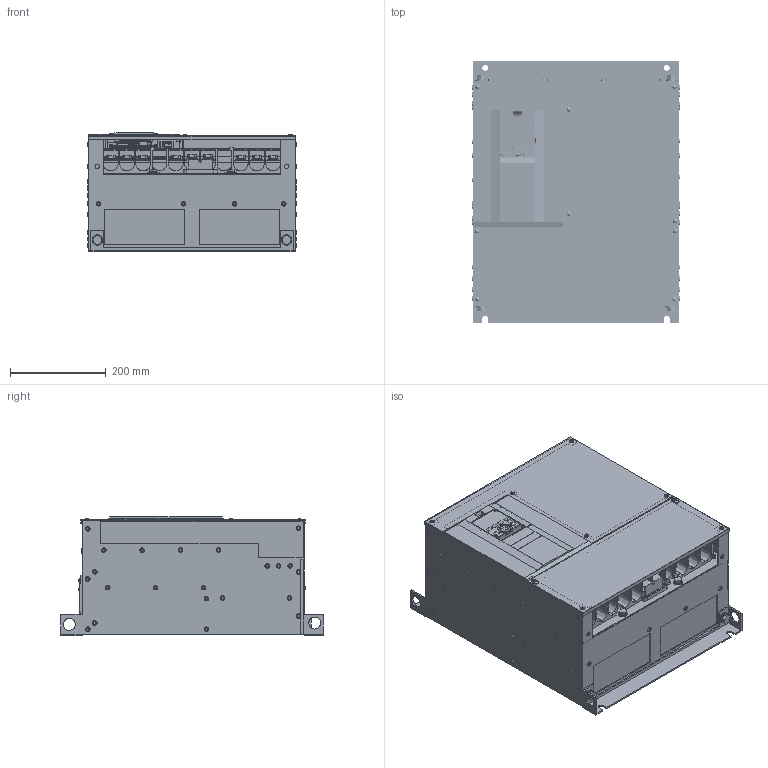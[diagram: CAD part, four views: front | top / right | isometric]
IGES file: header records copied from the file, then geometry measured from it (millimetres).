
Start section:  PTC IGES file: A820-37_45K.igs
Global section: file name: A820-37_45K.igs; native system: Pro/ENGINEER by Parametric Technology Corporation; preprocessor: 2011490; author: UJ56049; organization: Unknown; date: 20140124.100422; units: millimetre
Bounding box: 437.2 x 550 x 251 mm (x, y, z)
Volume: 41878452.5 mm3; surface area: 2397388.1 mm2
Topology: 2 solids, 38 shells, 4641 faces, 12615 edges, 8244 vertices
Faces by surface type: bspline 4641
